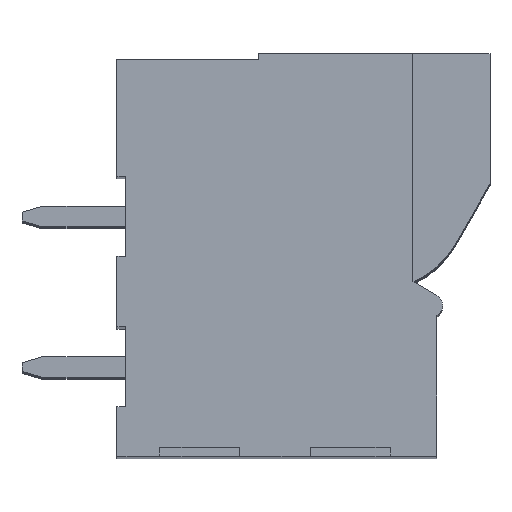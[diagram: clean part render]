
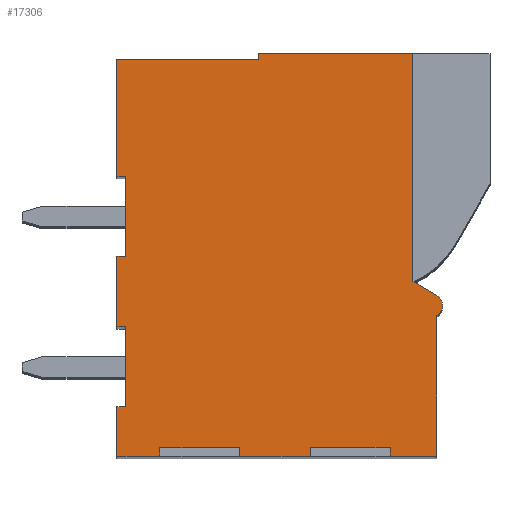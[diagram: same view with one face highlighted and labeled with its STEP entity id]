
A CAD part, top view. The second image highlights one B-rep face of the part: STEP entity #17306.
In plain terms, the highlighted planar face has unit normal (0, 0, 1).
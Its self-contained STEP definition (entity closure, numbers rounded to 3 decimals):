
#3380=CARTESIAN_POINT('',(10.604,5.094,0.));
#3381=DIRECTION('',(0.,0.,1.));
#3382=DIRECTION('',(0.495,-0.869,0.));
#3383=AXIS2_PLACEMENT_3D('',#3380,#3381,#3382);
#3385=DIRECTION('',(0.,1.,0.));
#3386=VECTOR('',#3385,0.2);
#3387=CARTESIAN_POINT('',(4.8,13.4,0.));
#3388=LINE('',#3387,#3386);
#3389=DIRECTION('',(1.,0.,0.));
#3390=VECTOR('',#3389,5.2);
#3391=CARTESIAN_POINT('',(4.8,13.6,0.));
#3392=LINE('',#3391,#3390);
#3393=DIRECTION('',(0.,-1.,0.));
#3394=VECTOR('',#3393,7.7);
#3395=CARTESIAN_POINT('',(10.,13.6,0.));
#3396=LINE('',#3395,#3394);
#3397=DIRECTION('',(0.866,-0.5,0.));
#3398=VECTOR('',#3397,0.926);
#3399=CARTESIAN_POINT('',(10.,5.9,0.));
#3400=LINE('',#3399,#3398);
#3401=DIRECTION('',(0.,-1.,0.));
#3402=VECTOR('',#3401,4.75);
#3403=CARTESIAN_POINT('',(10.8,4.75,0.));
#3404=LINE('',#3403,#3402);
#3405=DIRECTION('',(-1.,0.,0.));
#3406=VECTOR('',#3405,1.57);
#3407=CARTESIAN_POINT('',(10.8,0.,0.));
#3408=LINE('',#3407,#3406);
#3409=DIRECTION('',(0.,1.,0.));
#3410=VECTOR('',#3409,0.3);
#3411=CARTESIAN_POINT('',(9.23,0.,0.));
#3412=LINE('',#3411,#3410);
#3413=DIRECTION('',(-1.,0.,0.));
#3414=VECTOR('',#3413,2.7);
#3415=CARTESIAN_POINT('',(9.23,0.3,0.));
#3416=LINE('',#3415,#3414);
#3417=DIRECTION('',(0.,-1.,0.));
#3418=VECTOR('',#3417,0.3);
#3419=CARTESIAN_POINT('',(6.53,0.3,0.));
#3420=LINE('',#3419,#3418);
#3421=DIRECTION('',(-1.,0.,0.));
#3422=VECTOR('',#3421,2.38);
#3423=CARTESIAN_POINT('',(6.53,0.,0.));
#3424=LINE('',#3423,#3422);
#3425=DIRECTION('',(0.,1.,0.));
#3426=VECTOR('',#3425,0.3);
#3427=CARTESIAN_POINT('',(4.15,0.,0.));
#3428=LINE('',#3427,#3426);
#3429=DIRECTION('',(-1.,0.,0.));
#3430=VECTOR('',#3429,2.7);
#3431=CARTESIAN_POINT('',(4.15,0.3,0.));
#3432=LINE('',#3431,#3430);
#3433=DIRECTION('',(0.,-1.,0.));
#3434=VECTOR('',#3433,0.3);
#3435=CARTESIAN_POINT('',(1.45,0.3,0.));
#3436=LINE('',#3435,#3434);
#3437=DIRECTION('',(-1.,0.,0.));
#3438=VECTOR('',#3437,1.45);
#3439=CARTESIAN_POINT('',(1.45,0.,0.));
#3440=LINE('',#3439,#3438);
#3441=DIRECTION('',(0.,1.,0.));
#3442=VECTOR('',#3441,1.67);
#3443=CARTESIAN_POINT('',(0.,0.,0.));
#3444=LINE('',#3443,#3442);
#3445=DIRECTION('',(1.,0.,0.));
#3446=VECTOR('',#3445,0.3);
#3447=CARTESIAN_POINT('',(0.,1.67,0.));
#3448=LINE('',#3447,#3446);
#3449=DIRECTION('',(0.,1.,0.));
#3450=VECTOR('',#3449,2.7);
#3451=CARTESIAN_POINT('',(0.3,1.67,0.));
#3452=LINE('',#3451,#3450);
#3453=DIRECTION('',(-1.,0.,0.));
#3454=VECTOR('',#3453,0.3);
#3455=CARTESIAN_POINT('',(0.3,4.37,0.));
#3456=LINE('',#3455,#3454);
#3457=DIRECTION('',(0.,1.,0.));
#3458=VECTOR('',#3457,2.38);
#3459=CARTESIAN_POINT('',(0.,4.37,0.));
#3460=LINE('',#3459,#3458);
#3461=DIRECTION('',(1.,0.,0.));
#3462=VECTOR('',#3461,0.3);
#3463=CARTESIAN_POINT('',(0.,6.75,0.));
#3464=LINE('',#3463,#3462);
#3465=DIRECTION('',(0.,1.,0.));
#3466=VECTOR('',#3465,2.7);
#3467=CARTESIAN_POINT('',(0.3,6.75,0.));
#3468=LINE('',#3467,#3466);
#3469=DIRECTION('',(-1.,0.,0.));
#3470=VECTOR('',#3469,0.3);
#3471=CARTESIAN_POINT('',(0.3,9.45,0.));
#3472=LINE('',#3471,#3470);
#3473=DIRECTION('',(0.,1.,0.));
#3474=VECTOR('',#3473,3.95);
#3475=CARTESIAN_POINT('',(0.,9.45,0.));
#3476=LINE('',#3475,#3474);
#3477=DIRECTION('',(1.,0.,0.));
#3478=VECTOR('',#3477,4.8);
#3479=CARTESIAN_POINT('',(0.,13.4,0.));
#3480=LINE('',#3479,#3478);
#9519=CARTESIAN_POINT('',(10.,13.6,0.));
#9520=CARTESIAN_POINT('',(10.,5.9,0.));
#9521=VERTEX_POINT('',#9519);
#9522=VERTEX_POINT('',#9520);
#9523=CARTESIAN_POINT('',(4.8,13.6,0.));
#9524=VERTEX_POINT('',#9523);
#9525=CARTESIAN_POINT('',(4.8,13.4,0.));
#9526=VERTEX_POINT('',#9525);
#9527=CARTESIAN_POINT('',(0.,13.4,0.));
#9528=VERTEX_POINT('',#9527);
#9529=CARTESIAN_POINT('',(0.,9.45,0.));
#9530=VERTEX_POINT('',#9529);
#9531=CARTESIAN_POINT('',(0.3,9.45,0.));
#9532=VERTEX_POINT('',#9531);
#9533=CARTESIAN_POINT('',(0.3,6.75,0.));
#9534=VERTEX_POINT('',#9533);
#9535=CARTESIAN_POINT('',(0.,6.75,0.));
#9536=VERTEX_POINT('',#9535);
#9537=CARTESIAN_POINT('',(0.,4.37,0.));
#9538=VERTEX_POINT('',#9537);
#9539=CARTESIAN_POINT('',(0.3,4.37,0.));
#9540=VERTEX_POINT('',#9539);
#9541=CARTESIAN_POINT('',(0.3,1.67,0.));
#9542=VERTEX_POINT('',#9541);
#9543=CARTESIAN_POINT('',(0.,1.67,0.));
#9544=VERTEX_POINT('',#9543);
#9545=CARTESIAN_POINT('',(0.,0.,0.));
#9546=VERTEX_POINT('',#9545);
#9547=CARTESIAN_POINT('',(1.45,0.,0.));
#9548=VERTEX_POINT('',#9547);
#9549=CARTESIAN_POINT('',(1.45,0.3,0.));
#9550=VERTEX_POINT('',#9549);
#9551=CARTESIAN_POINT('',(4.15,0.3,0.));
#9552=VERTEX_POINT('',#9551);
#9553=CARTESIAN_POINT('',(4.15,0.,0.));
#9554=VERTEX_POINT('',#9553);
#9555=CARTESIAN_POINT('',(6.53,0.,0.));
#9556=VERTEX_POINT('',#9555);
#9557=CARTESIAN_POINT('',(6.53,0.3,0.));
#9558=VERTEX_POINT('',#9557);
#9559=CARTESIAN_POINT('',(9.23,0.3,0.));
#9560=VERTEX_POINT('',#9559);
#9561=CARTESIAN_POINT('',(9.23,0.,0.));
#9562=VERTEX_POINT('',#9561);
#9563=CARTESIAN_POINT('',(10.8,0.,0.));
#9564=VERTEX_POINT('',#9563);
#9565=CARTESIAN_POINT('',(10.8,4.75,0.));
#9566=VERTEX_POINT('',#9565);
#9567=CARTESIAN_POINT('',(10.802,5.437,0.));
#9568=VERTEX_POINT('',#9567);
#17259=CARTESIAN_POINT('',(5.5,6.8,0.));
#17260=DIRECTION('',(0.,0.,1.));
#17261=DIRECTION('',(0.,-1.,0.));
#17262=AXIS2_PLACEMENT_3D('',#17259,#17260,#17261);
#17263=PLANE('',#17262);
#17265=ORIENTED_EDGE('',*,*,#17264,.T.);
#17266=ORIENTED_EDGE('',*,*,#14562,.T.);
#17268=ORIENTED_EDGE('',*,*,#17267,.T.);
#17269=ORIENTED_EDGE('',*,*,#12726,.T.);
#17270=ORIENTED_EDGE('',*,*,#17239,.F.);
#17271=ORIENTED_EDGE('',*,*,#17225,.T.);
#17272=ORIENTED_EDGE('',*,*,#17211,.T.);
#17274=ORIENTED_EDGE('',*,*,#17273,.T.);
#17276=ORIENTED_EDGE('',*,*,#17275,.T.);
#17278=ORIENTED_EDGE('',*,*,#17277,.T.);
#17279=ORIENTED_EDGE('',*,*,#17203,.T.);
#17281=ORIENTED_EDGE('',*,*,#17280,.T.);
#17283=ORIENTED_EDGE('',*,*,#17282,.T.);
#17285=ORIENTED_EDGE('',*,*,#17284,.T.);
#17286=ORIENTED_EDGE('',*,*,#17195,.T.);
#17287=ORIENTED_EDGE('',*,*,#17181,.T.);
#17288=ORIENTED_EDGE('',*,*,#17167,.T.);
#17289=ORIENTED_EDGE('',*,*,#15361,.T.);
#17291=ORIENTED_EDGE('',*,*,#17290,.T.);
#17293=ORIENTED_EDGE('',*,*,#17292,.T.);
#17295=ORIENTED_EDGE('',*,*,#17294,.T.);
#17297=ORIENTED_EDGE('',*,*,#17296,.T.);
#17299=ORIENTED_EDGE('',*,*,#17298,.T.);
#17301=ORIENTED_EDGE('',*,*,#17300,.T.);
#17303=ORIENTED_EDGE('',*,*,#17302,.T.);
#17304=EDGE_LOOP('',(#17265,#17266,#17268,#17269,#17270,#17271,#17272,#17274,
#17276,#17278,#17279,#17281,#17283,#17285,#17286,#17287,#17288,#17289,#17291,
#17293,#17295,#17297,#17299,#17301,#17303));
#17305=FACE_OUTER_BOUND('',#17304,.F.);
#3384=CIRCLE('',#3383,0.396);
#12726=EDGE_CURVE('',#9522,#9568,#3400,.T.);
#14562=EDGE_CURVE('',#9524,#9521,#3392,.T.);
#15361=EDGE_CURVE('',#9542,#9540,#3452,.T.);
#17167=EDGE_CURVE('',#9544,#9542,#3448,.T.);
#17181=EDGE_CURVE('',#9546,#9544,#3444,.T.);
#17195=EDGE_CURVE('',#9548,#9546,#3440,.T.);
#17203=EDGE_CURVE('',#9556,#9554,#3424,.T.);
#17211=EDGE_CURVE('',#9564,#9562,#3408,.T.);
#17225=EDGE_CURVE('',#9566,#9564,#3404,.T.);
#17239=EDGE_CURVE('',#9566,#9568,#3384,.T.);
#17264=EDGE_CURVE('',#9526,#9524,#3388,.T.);
#17267=EDGE_CURVE('',#9521,#9522,#3396,.T.);
#17273=EDGE_CURVE('',#9562,#9560,#3412,.T.);
#17275=EDGE_CURVE('',#9560,#9558,#3416,.T.);
#17277=EDGE_CURVE('',#9558,#9556,#3420,.T.);
#17280=EDGE_CURVE('',#9554,#9552,#3428,.T.);
#17282=EDGE_CURVE('',#9552,#9550,#3432,.T.);
#17284=EDGE_CURVE('',#9550,#9548,#3436,.T.);
#17290=EDGE_CURVE('',#9540,#9538,#3456,.T.);
#17292=EDGE_CURVE('',#9538,#9536,#3460,.T.);
#17294=EDGE_CURVE('',#9536,#9534,#3464,.T.);
#17296=EDGE_CURVE('',#9534,#9532,#3468,.T.);
#17298=EDGE_CURVE('',#9532,#9530,#3472,.T.);
#17300=EDGE_CURVE('',#9530,#9528,#3476,.T.);
#17302=EDGE_CURVE('',#9528,#9526,#3480,.T.);
#17306=ADVANCED_FACE('',(#17305),#17263,.T.);
